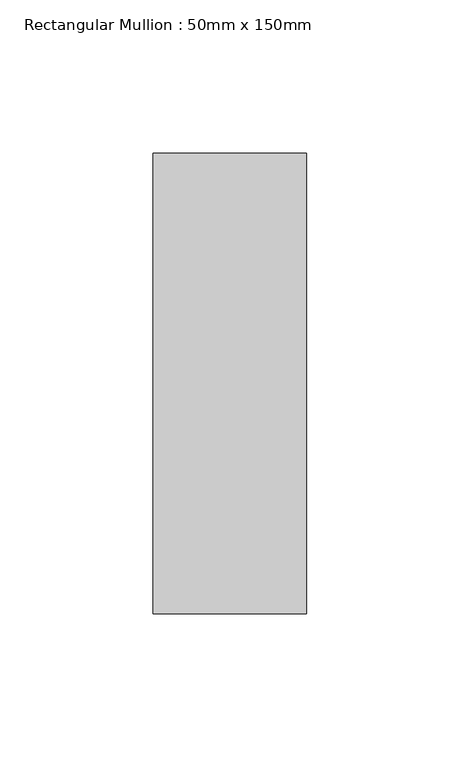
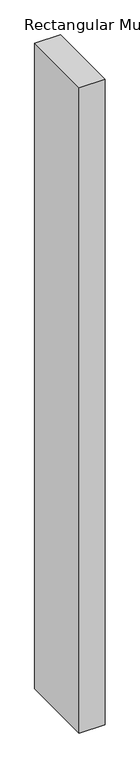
"""IFC4 building model written with IfcOpenShell, lengths in millimetres: member geometry, Rectangular Mullion : 50mm x 150mm."""

import ifcopenshell
import ifcopenshell.guid

model = None  # the IFC model being written
_history = None  # IfcOwnerHistory: only IFC2X3 demands one
_inside = {}  # id of a spatial element -> (the spatial element, [elements in it])
_under = {}  # id of a project, library or spatial element -> (it, [spatial elements below it])
_declared = {}  # id of a project -> (the project, [libraries it declares])
_typed = {}  # id of a type object -> (the type object, [elements of that type])
_made_of = {}  # id of a material, layer set ... -> (it, [elements and type objects made of it])


def new_model(schema):
    """Start an empty IFC model of exactly this schema.

    Asked for "IFC4X3", IfcOpenShell would pick the latest addendum, in which some entities
    have other attributes; the version numbers below select the first issue.
    IFC2X3 requires an IfcOwnerHistory on every rooted entity: one is made here for all.
    """
    global model, _history
    if schema == "IFC4X3":
        model = ifcopenshell.file(schema_version=(4, 3, 0, 0))
    else:
        model = ifcopenshell.file(schema=schema)
    _inside.clear()
    _under.clear()
    _declared.clear()
    _typed.clear()
    _made_of.clear()
    _history = None
    if model.schema == "IFC2X3":
        org = make("IfcOrganization", Name="unknown")
        user = make(
            "IfcPersonAndOrganization",
            ThePerson=make("IfcPerson", FamilyName="unknown"),
            TheOrganization=org,
        )
        app = make(
            "IfcApplication",
            ApplicationDeveloper=org,
            Version="unknown",
            ApplicationFullName="unknown",
            ApplicationIdentifier="unknown",
        )
        _history = make(
            "IfcOwnerHistory",
            OwningUser=user,
            OwningApplication=app,
            ChangeAction="ADDED",
            CreationDate=0,
        )
    return model


def make(cls, **values):
    """One entity of the class cls with the attributes given. An attribute that is None is left unset."""
    return model.create_entity(
        cls, **{name: value for name, value in values.items() if value is not None}
    )


def rooted(cls, **values):
    """An entity with a GlobalId (a new one), such as an element, a storey or a relation."""
    return make(cls, GlobalId=ifcopenshell.guid.new(), OwnerHistory=_history, **values)


def si_unit(unit_type, name, prefix=None):
    """IfcSIUnit, for example si_unit("LENGTHUNIT", "METRE", prefix="MILLI")."""
    return make("IfcSIUnit", UnitType=unit_type, Prefix=prefix, Name=name)


def assignment(units):
    """IfcUnitAssignment: the units of a project."""
    return None if units is None else make("IfcUnitAssignment", Units=units)


def point(xyz):
    """IfcCartesianPoint."""
    return None if xyz is None else make("IfcCartesianPoint", Coordinates=xyz)


def direction(xyz):
    """IfcDirection."""
    return None if xyz is None else make("IfcDirection", DirectionRatios=xyz)


def frame(location, z_axis=None, x_axis=None):
    """IfcAxis2Placement3D, a coordinate frame: its origin and axes. An axis left out is left unset."""
    return make(
        "IfcAxis2Placement3D",
        Location=point(location),
        Axis=direction(z_axis),
        RefDirection=direction(x_axis),
    )


def origin():
    """The frame at (0, 0, 0) with its axes left unset."""
    return frame((0.0, 0.0, 0.0))


def place(relative_to, where):
    """IfcLocalPlacement: puts the frame where relative to a parent placement (None: the world)."""
    return make(
        "IfcLocalPlacement", PlacementRelTo=relative_to, RelativePlacement=where
    )


def context(
    kind, dimensions, precision=None, world=None, true_north=None, identifier=None
):
    """IfcGeometricRepresentationContext, for example the 3D "Model" context."""
    return make(
        "IfcGeometricRepresentationContext",
        ContextIdentifier=identifier,
        ContextType=kind,
        CoordinateSpaceDimension=dimensions,
        Precision=precision,
        WorldCoordinateSystem=world,
        TrueNorth=true_north,
    )


def project(units=None, contexts=None):
    """IfcProject with its units and contexts."""
    return rooted(
        "IfcProject",
        Name="project",
        RepresentationContexts=contexts,
        UnitsInContext=assignment(units),
    )


def spatial(cls, under=None, at=None, **own):
    """A site, building, storey or space (cls), placed at a placement, below another one or the project."""
    s = rooted(cls, ObjectPlacement=at, **own)
    if under is not None:
        _under.setdefault(under.id(), (under, []))[1].append(s)
    return s


def polyline(points):
    """IfcPolyline through the points."""
    return make("IfcPolyline", Points=[point(p) for p in points])


def outline(outer, holes=None, kind="AREA"):
    """IfcArbitraryClosedProfileDef: a profile drawn as a closed curve; with holes, ...WithVoids."""
    if holes is None:
        return make("IfcArbitraryClosedProfileDef", ProfileType=kind, OuterCurve=outer)
    return make(
        "IfcArbitraryProfileDefWithVoids",
        ProfileType=kind,
        OuterCurve=outer,
        InnerCurves=holes,
    )


def extrude(swept, where, along, depth):
    """IfcExtrudedAreaSolid: the profile swept, set in the frame where, extruded along a direction by depth."""
    return make(
        "IfcExtrudedAreaSolid",
        SweptArea=swept,
        Position=where,
        ExtrudedDirection=direction(along),
        Depth=depth,
    )


def shape(context_of_items, identifier, shape_type, items):
    """IfcShapeRepresentation: the items that make up one representation, for example the "Body"."""
    return make(
        "IfcShapeRepresentation",
        ContextOfItems=context_of_items,
        RepresentationIdentifier=identifier,
        RepresentationType=shape_type,
        Items=items,
    )


def source(mapping_origin, context_of_items, identifier, shape_type, items):
    """IfcRepresentationMap: a shape defined once, which mapped items show again and again."""
    return make(
        "IfcRepresentationMap",
        MappingOrigin=mapping_origin,
        MappedRepresentation=shape(context_of_items, identifier, shape_type, items),
    )


def transform(
    local_origin,
    x_axis=None,
    y_axis=None,
    z_axis=None,
    scale=None,
    scale2=None,
    scale3=None,
    uniform=True,
):
    """IfcCartesianTransformationOperator3D, or its non-uniform kind. x_axis, y_axis, z_axis: its Axis1, 2, 3."""
    if uniform:
        return make(
            "IfcCartesianTransformationOperator3D",
            Axis1=direction(x_axis),
            Axis2=direction(y_axis),
            LocalOrigin=point(local_origin),
            Scale=scale,
            Axis3=direction(z_axis),
        )
    return make(
        "IfcCartesianTransformationOperator3DnonUniform",
        Axis1=direction(x_axis),
        Axis2=direction(y_axis),
        LocalOrigin=point(local_origin),
        Scale=scale,
        Axis3=direction(z_axis),
        Scale2=scale2,
        Scale3=scale3,
    )


def mapped(mapping_source, mapping_target):
    """IfcMappedItem: shows the shape of a source again, moved by a transform."""
    return make(
        "IfcMappedItem", MappingSource=mapping_source, MappingTarget=mapping_target
    )


def made_of(thing, what):
    """Note that an element or type object is made of a material, layer set ...; save() writes the relation."""
    if what is not None:
        _made_of.setdefault(what.id(), (what, []))[1].append(thing)
    return thing


def element(
    cls,
    number,
    at=None,
    inside=None,
    cuts=None,
    type_object=None,
    material=None,
    context=None,
    identifier="Body",
    shape_type=None,
    held_by="IfcProductDefinitionShape",
    body=None,
    shapes=None,
    **own,
):
    """One element of the class cls, such as IfcWall. Its Tag is "e" and its number.

    at: its placement. inside: the storey or other place that contains it. cuts: it is an
    opening in that element (IfcRelVoidsElement). A single representation is given by context,
    identifier, shape_type and body (its items); several are given by shapes. held_by: the class
    of the entity that holds the representations. save() writes the other relations.
    """
    e = rooted(cls, Tag="e%d" % number, ObjectPlacement=at, **own)
    if body is not None:
        shapes = [shape(context, identifier, shape_type, body)]
    if shapes is not None:
        e.Representation = make(held_by, Representations=shapes)
    if inside is not None:
        _inside.setdefault(inside.id(), (inside, []))[1].append(e)
    if cuts is not None:
        rooted(
            "IfcRelVoidsElement", RelatingBuildingElement=cuts, RelatedOpeningElement=e
        )
    if type_object is not None:
        _typed.setdefault(type_object.id(), (type_object, []))[1].append(e)
    return made_of(e, material)


def aggregate(whole, parts):
    """IfcRelAggregates: a whole, such as a stair, and the parts it consists of."""
    return rooted("IfcRelAggregates", RelatingObject=whole, RelatedObjects=parts)


def save(model, path):
    """Write the relations noted so far, then the file.

    IfcRelAggregates (storeys below a building ...), IfcRelContainedInSpatialStructure (elements
    in a storey), IfcRelDefinesByType, IfcRelAssociatesMaterial and IfcRelDeclares: one each for
    every whole, place, type object, material and project.
    """
    for whole, parts in _under.values():
        aggregate(whole, parts)
    for where, things in _inside.values():
        rooted(
            "IfcRelContainedInSpatialStructure",
            RelatedElements=things,
            RelatingStructure=where,
        )
    for kind, things in _typed.values():
        rooted("IfcRelDefinesByType", RelatedObjects=things, RelatingType=kind)
    for what, things in _made_of.values():
        rooted("IfcRelAssociatesMaterial", RelatedObjects=things, RelatingMaterial=what)
    for by, libraries in _declared.values():
        rooted("IfcRelDeclares", RelatingContext=by, RelatedDefinitions=libraries)
    model.write(path)


def rectangular_mullion_50mm_x_150mm_f059afb6(model_context):
    return source(origin(), model_context, "Body", "SweptSolid", [
        extrude(outline(polyline([(25.0, 75.0), (25.0, -75.0), (-25.0, -75.0), (-25.0, 75.0), (25.0, 75.0)])), frame((0.0, 0.0, -1327.8178267), z_axis=(0.0, 0.0, 1.0), x_axis=(1.0, 0.0, 0.0)), (0.0, 0.0, 1.0), 1327.8178267),
    ])


if __name__ == "__main__":
    model = new_model("IFC4")
    model_context = context("Model", 3, world=origin())
    ifc_project = project(units=[si_unit("LENGTHUNIT", "METRE", prefix="MILLI")], contexts=[model_context])
    site = spatial("IfcSite", under=ifc_project)
    building = spatial("IfcBuilding", under=site)
    placement = place(None, origin())
    rectangular_mullion_50mm_x_150mm_shape = rectangular_mullion_50mm_x_150mm_f059afb6(model_context)
    element("IfcMember", 1, ObjectType="Rectangular Mullion : 50mm x 150mm", at=placement, inside=building, context=model_context, shape_type="MappedRepresentation", body=[
        mapped(rectangular_mullion_50mm_x_150mm_shape, transform((0.0, 0.0, 0.0), x_axis=(1.0, 0.0, 0.0), y_axis=(0.0, 1.0, 0.0), z_axis=(0.0, 0.0, 1.0))),
    ])
    save(model, "model.ifc")
